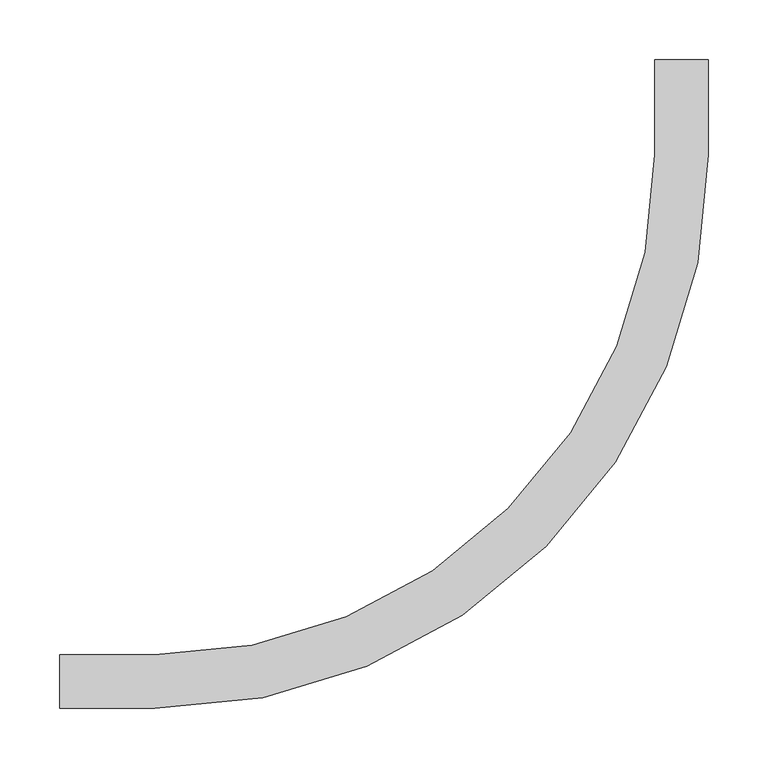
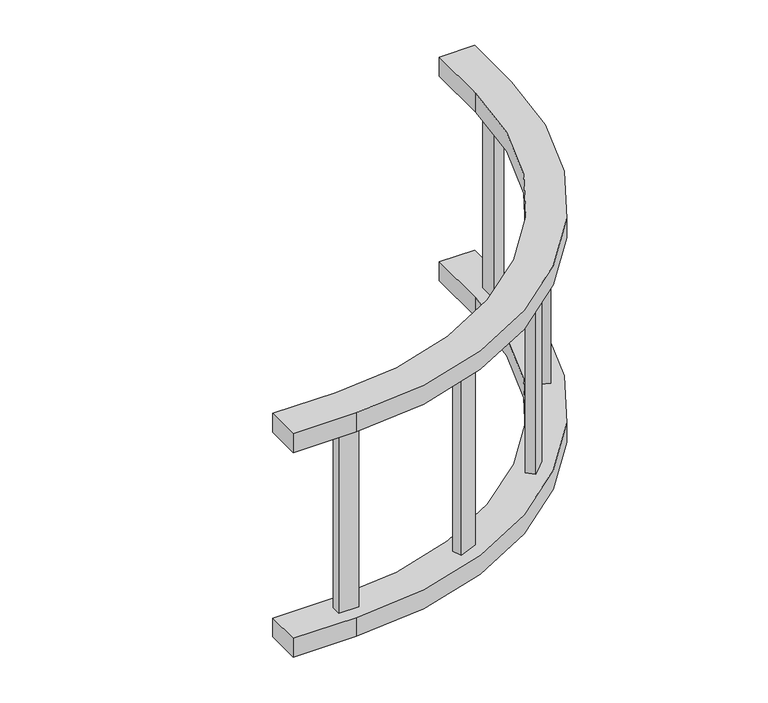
"""IFC4 building model written with IfcOpenShell, lengths in millimetres: cable carrier fitting geometry, BAKS_LD_BEND_Vertical bend 90deg external_LPDZ : LPDZC_H45."""

from ifc_helpers import new_model, si_unit, point, frame, frame_2d, origin, place, context, project, spatial, polyline, circle_curve, trimmed, segment, composite_curve, outline, extrude, source, transform, mapped, element, save


def cable_carrier_fitting_3c98dc92(model_context):
    return source(origin(), model_context, "Body", "SweptSolid", [
        extrude(outline(polyline([(-34.3665045, 287.1919518), (-23.2799501, 282.5997506), (-33.0001093, 259.1332105), (-44.0866636, 263.7254117), (-34.3665045, 287.1919518)])), frame((0.0, 0.0, -124.6), z_axis=(0.0, 0.0, 1.0), x_axis=(1.0, 0.0, 0.0)), (0.0, 0.0, 1.0), 249.2),
        extrude(outline(polyline([(-263.7254117, 44.0866636), (-259.1332105, 33.0001093), (-282.5997506, 23.2799501), (-287.1919518, 34.3665045), (-263.7254117, 44.0866636)])), frame((0.0, 0.0, -124.6), z_axis=(0.0, 0.0, 1.0), x_axis=(1.0, 0.0, 0.0)), (0.0, 0.0, 1.0), 249.2),
        extrude(outline(polyline([(-6.0, 455.2), (6.0, 455.2), (6.0, 429.8), (-6.0, 429.8), (-6.0, 455.2)])), frame((0.0, 0.0, -124.6), z_axis=(0.0, 0.0, 1.0), x_axis=(1.0, 0.0, 0.0)), (0.0, 0.0, 1.0), 249.2),
        extrude(outline(polyline([(-124.8676339, 142.8281461), (-116.3823525, 134.3428648), (-134.3428648, 116.3823525), (-142.8281461, 124.8676339), (-124.8676339, 142.8281461)])), frame((0.0, 0.0, -124.6), z_axis=(0.0, 0.0, 1.0), x_axis=(1.0, 0.0, 0.0)), (0.0, 0.0, 1.0), 249.2),
        extrude(outline(polyline([(-455.2, -6.0), (-455.2, 6.0), (-429.8, 6.0), (-429.8, -6.0), (-455.2, -6.0)])), frame((0.0, 0.0, -124.6), z_axis=(0.0, 0.0, 1.0), x_axis=(1.0, 0.0, 0.0)), (0.0, 0.0, 1.0), 249.2),
        extrude(outline(composite_curve([segment(polyline([(-522.5, -22.5), (-522.5, 22.5), (-442.5, 22.5)]), True, "CONTINUOUS"), segment(trimmed(circle_curve(frame_2d((-442.5, 442.5)), 420.0), [point((-442.5, 22.5))], [point((-22.5, 442.5))], True, "CARTESIAN"), True, "CONTINUOUS"), segment(polyline([(-22.5, 442.5), (-22.5, 522.5), (22.5, 522.5), (22.5, 442.5)]), True, "CONTINUOUS"), segment(trimmed(circle_curve(frame_2d((-442.5, 442.5)), 465.0), [point((22.5, 442.5))], [point((-442.5, -22.5))], False, "CARTESIAN"), True, "CONTINUOUS"), segment(polyline([(-442.5, -22.5), (-522.5, -22.5)]), True, "CONTINUOUS")], self_intersect=False)), frame((0.0, 0.0, 124.6), z_axis=(0.0, 0.0, 1.0), x_axis=(1.0, 0.0, 0.0)), (0.0, 0.0, 1.0), 25.4),
        extrude(outline(composite_curve([segment(polyline([(-522.5, -22.5), (-522.5, 22.5), (-442.5, 22.5)]), True, "CONTINUOUS"), segment(trimmed(circle_curve(frame_2d((-442.5, 442.5)), 420.0), [point((-442.5, 22.5))], [point((-22.5, 442.5))], True, "CARTESIAN"), True, "CONTINUOUS"), segment(polyline([(-22.5, 442.5), (-22.5, 522.5), (22.5, 522.5), (22.5, 442.5)]), True, "CONTINUOUS"), segment(trimmed(circle_curve(frame_2d((-442.5, 442.5)), 465.0), [point((22.5, 442.5))], [point((-442.5, -22.5))], False, "CARTESIAN"), True, "CONTINUOUS"), segment(polyline([(-442.5, -22.5), (-522.5, -22.5)]), True, "CONTINUOUS")], self_intersect=False)), frame((0.0, 0.0, -150.0), z_axis=(0.0, 0.0, 1.0), x_axis=(1.0, 0.0, 0.0)), (0.0, 0.0, 1.0), 25.4),
    ])


if __name__ == "__main__":
    model = new_model("IFC4")
    model_context = context("Model", 3, world=origin())
    ifc_project = project(units=[si_unit("LENGTHUNIT", "METRE", prefix="MILLI")], contexts=[model_context])
    site = spatial("IfcSite", under=ifc_project)
    building = spatial("IfcBuilding", under=site)
    placement = place(None, origin())
    cable_carrier_fitting_shape = cable_carrier_fitting_3c98dc92(model_context)
    element("IfcCableCarrierFitting", 1, ObjectType="BAKS_LD_BEND_Vertical bend 90deg external_LPDZ : LPDZC_H45", at=placement, inside=building, context=model_context, shape_type="MappedRepresentation", body=[
        mapped(cable_carrier_fitting_shape, transform((0.0, 0.0, 0.0), x_axis=(1.0, 0.0, 0.0), y_axis=(0.0, 1.0, 0.0), z_axis=(0.0, 0.0, 1.0))),
    ])
    save(model, "model.ifc")
